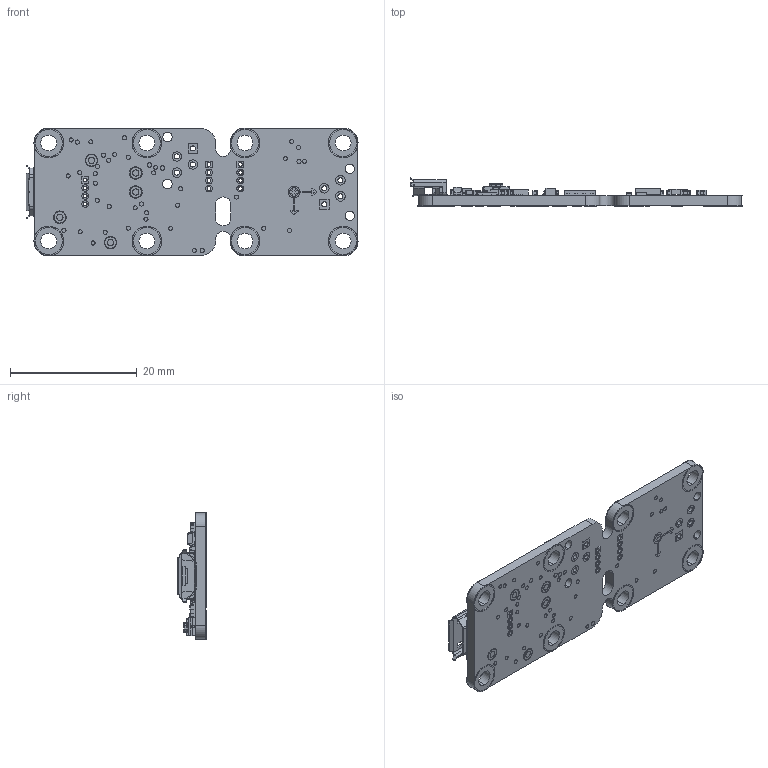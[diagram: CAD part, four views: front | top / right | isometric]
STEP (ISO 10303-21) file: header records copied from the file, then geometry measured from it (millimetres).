
FILE_DESCRIPTION (( 'STEP AP214' ), '1' );
FILE_NAME ('yocto_Yocto3D-B.STEP', '2014-02-12T12:40:48', ( 'martinm' ), ( '' ), 'SwSTEP 2.0', 'SolidWorks 2008', '' );
FILE_SCHEMA (( 'AUTOMOTIVE_DESIGN' ));
Length unit declared in the file: millimetre
Products named in the file (30): yocto_Yocto3D-BOutLine_Défaut; LSM303DTR_Défaut; GRM188R71E224KA88D; C1608X5R0J475KT; C0603C682K5RACTU; C0603C106M9PACTU; GRM188R71E104KA01D; GRM188R61C225KE15D; C2012X7R2E472KT5; C0805C105K4RACTU; GRM188R60J105KA01D; SST25VF080B-80-4I-QAE; L3GD20TR; TEST_POINT_Défaut; CRCW060310K0JNEB; CRCW06031R00FNEA; CRCW0603150RFKEA; CRCW0603100KJNEA; RK73H1JTTD4702F; 301-4.7K-RC; CRCW0603100RJNEB; CRCW06031M00JNEB; MCP1703T-3302E_CB; KMR211NGLFS; PIC24FJ64GB002-I_ML; ZX62-B-5PA(11); ASMT-TBBM-NP902; TLV70030DDCT; FAN4010IL6X_F113; yocto_Yocto3D-B
Assembly tree (40 placements, depth 2):
  TEST_POINT_Défaut
  yocto_Yocto3D-B
    C0603C682K5RACTU
    GRM188R60J105KA01D  x3
    GRM188R71E104KA01D  x8
    CRCW0603150RFKEA
    TLV70030DDCT
    ZX62-B-5PA(11)
    GRM188R61C225KE15D
    RK73H1JTTD4702F
    C0805C105K4RACTU
    C1608X5R0J475KT
    301-4.7K-RC  x2
    CRCW06031M00JNEB
    GRM188R71E224KA88D
    ASMT-TBBM-NP902
    C0603C106M9PACTU  x3
    MCP1703T-3302E_CB
    LSM303DTR_Défaut
    KMR211NGLFS
    yocto_Yocto3D-BOutLine_Défaut
    CRCW060310K0JNEB
    CRCW0603100KJNEA
    C2012X7R2E472KT5
    CRCW06031R00FNEA
    CRCW0603100RJNEB
    SST25VF080B-80-4I-QAE
    FAN4010IL6X_F113
    L3GD20TR
    PIC24FJ64GB002-I_ML
Bounding box: 52.45 x 4.45 x 20.2 mm (x, y, z)
Volume: 1663.9 mm3; surface area: 3195.6 mm2
Topology: 52 solids, 52 shells, 5874 faces, 14876 edges, 9530 vertices
Faces by surface type: plane 3631, cylinder 1349, bspline 727, sphere 160, torus 7
Entity records: 249395 total; most frequent: CARTESIAN_POINT 71137, ORIENTED_EDGE 27002, DIRECTION 23617, EDGE_CURVE 13501, LINE 9707, VECTOR 9707, VERTEX_POINT 8856, AXIS2_PLACEMENT_3D 6955
